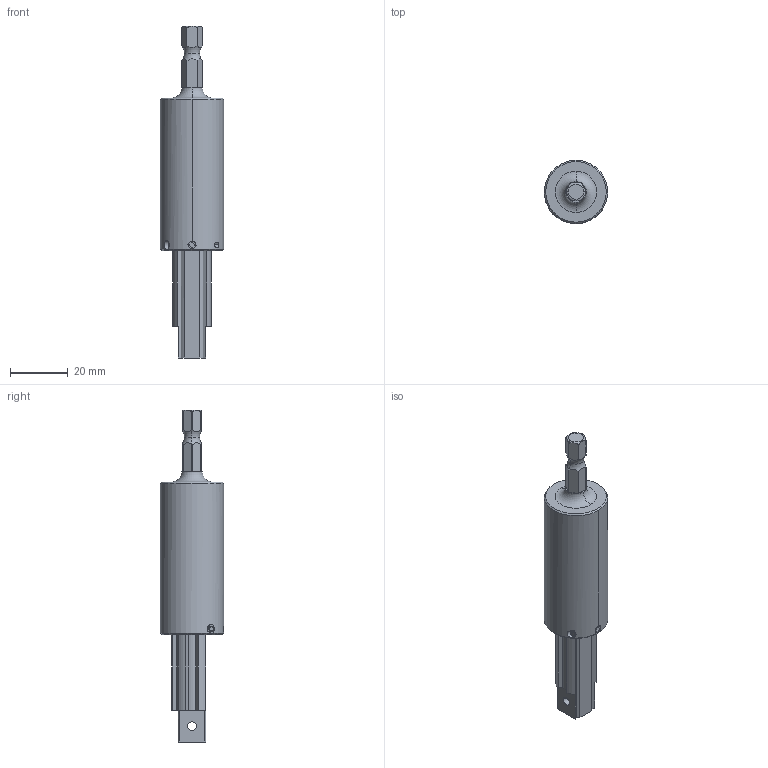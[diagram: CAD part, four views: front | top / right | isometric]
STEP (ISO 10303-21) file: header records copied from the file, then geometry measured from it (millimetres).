
FILE_DESCRIPTION (( 'STEP AP214' ), '1' );
FILE_NAME ('Compensatore Kolver 1-4_3-8.STEP', '2013-07-24T15:00:29', ( '' ), ( '' ), 'SwSTEP 2.0', 'SolidWorks 2013', '' );
FILE_SCHEMA (( 'AUTOMOTIVE_DESIGN' ));
Length unit declared in the file: millimetre
Products named in the file (1): Compensatore Kolver 1-4_3-8
Bounding box: 22 x 22 x 115.25 mm (x, y, z)
Volume: 17563.1 mm3; surface area: 15704.9 mm2
Topology: 5 solids, 5 shells, 169 faces, 460 edges, 298 vertices
Faces by surface type: plane 73, cylinder 72, torus 12, cone 12
Entity records: 7859 total; most frequent: CARTESIAN_POINT 1622, ORIENTED_EDGE 908, DIRECTION 904, EDGE_CURVE 454, AXIS2_PLACEMENT_3D 344, VERTEX_POINT 296, VECTOR 216, LINE 216
